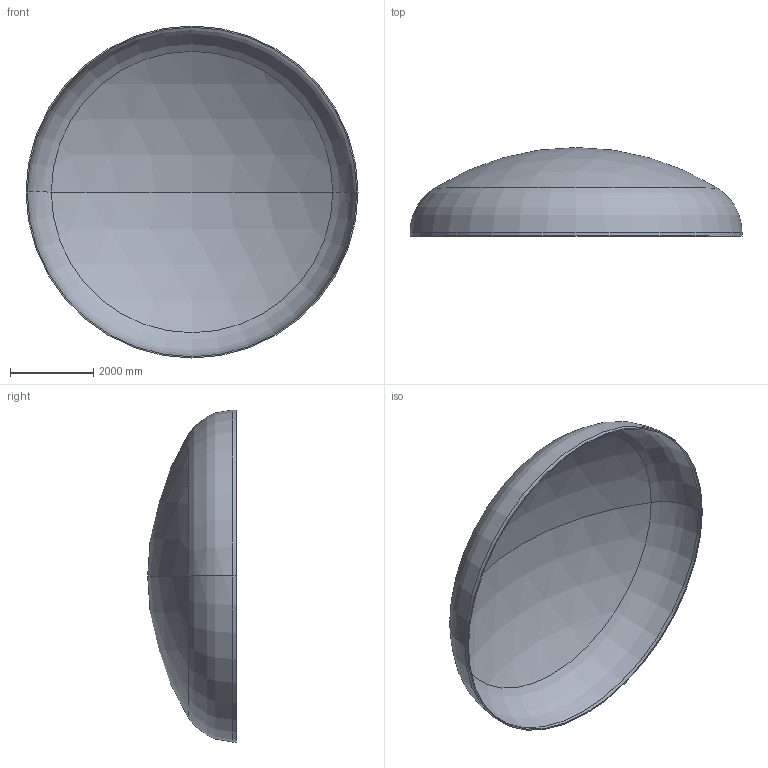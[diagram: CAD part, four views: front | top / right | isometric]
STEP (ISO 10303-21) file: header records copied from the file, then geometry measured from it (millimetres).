
FILE_DESCRIPTION (( 'STEP AP203' ), '1' );
FILE_NAME ('DIN 28013 Korbbogenform_-_Boden DIN 28013 - 8000 x 90 - I - s=30.step', '2016-07-04T11:00:16', ( '' ), ( '' ), 'SwSTEP 2.0', 'SolidWorks 2013', '' );
FILE_SCHEMA (( 'CONFIG_CONTROL_DESIGN' ));
Length unit declared in the file: millimetre
Products named in the file (1): DIN 28013 Korbbogenform_-_Boden DIN 28013 - 8000 x 90 - I - s=30
Bounding box: 8000 x 2135.79 x 8000 mm (x, y, z)
Volume: 2145244248.6 mm3; surface area: 143769265.2 mm2
Topology: 1 solids, 1 shells, 13 faces, 24 edges, 14 vertices
Faces by surface type: torus 4, cylinder 4, sphere 4, plane 1
Entity records: 407 total; most frequent: DIRECTION 72, CARTESIAN_POINT 52, ORIENTED_EDGE 48, AXIS2_PLACEMENT_3D 34, EDGE_CURVE 24, CIRCLE 20, EDGE_LOOP 14, VERTEX_POINT 14
